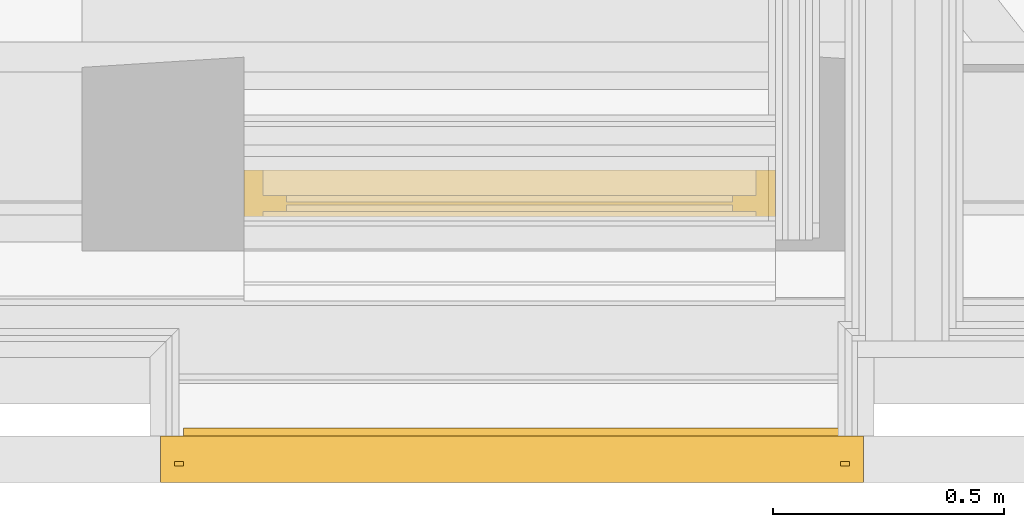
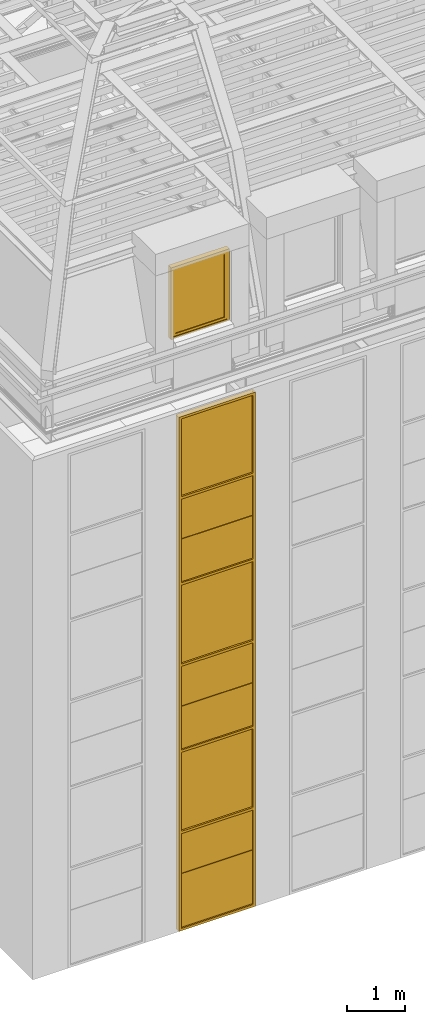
# One storey, part 107 of 183: 1 curtain wall, 1 window.
"""IFC2X3 building model written with IfcOpenShell, lengths in metres."""

from ifc_helpers import new_model, entity, si_unit, converted_unit, derived_unit, money_unit, direction, frame, origin_with_axes, place, context, subcontext, project, spatial, faceted_brep, material, type_object, element, save


model = new_model("IFC2X3")

# Units and contexts
model_context = context("Model", 3, precision=1e-05, world=origin_with_axes(), true_north=direction((0.0, 1.0)))
body_context = subcontext(model_context, "Body", "Model", "MODEL_VIEW", scale=1.0)
ifc_project = project(units=[si_unit("LENGTHUNIT", "METRE"), si_unit("AREAUNIT", "SQUARE_METRE"), si_unit("VOLUMEUNIT", "CUBIC_METRE"), si_unit("ABSORBEDDOSEUNIT", "GRAY"), si_unit("AMOUNTOFSUBSTANCEUNIT", "MOLE"), si_unit("DOSEEQUIVALENTUNIT", "SIEVERT"), si_unit("ELECTRICCAPACITANCEUNIT", "FARAD"), si_unit("ELECTRICCHARGEUNIT", "COULOMB"), si_unit("ELECTRICCONDUCTANCEUNIT", "SIEMENS"), si_unit("ELECTRICCURRENTUNIT", "AMPERE"), si_unit("ELECTRICRESISTANCEUNIT", "OHM"), si_unit("ELECTRICVOLTAGEUNIT", "VOLT"), si_unit("ENERGYUNIT", "JOULE"), si_unit("FORCEUNIT", "NEWTON"), si_unit("FREQUENCYUNIT", "HERTZ"), si_unit("ILLUMINANCEUNIT", "LUX"), si_unit("INDUCTANCEUNIT", "HENRY"), si_unit("LUMINOUSFLUXUNIT", "LUMEN"), si_unit("LUMINOUSINTENSITYUNIT", "CANDELA"), si_unit("MAGNETICFLUXDENSITYUNIT", "TESLA"), si_unit("MAGNETICFLUXUNIT", "WEBER"), si_unit("MASSUNIT", "GRAM"), converted_unit("PLANEANGLEUNIT", "degree", entity("IfcReal", 0.0174532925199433), si_unit("PLANEANGLEUNIT", "RADIAN"), dimensions=[0, 0, 0, 0, 0, 0, 0]), si_unit("POWERUNIT", "WATT"), si_unit("PRESSUREUNIT", "PASCAL"), si_unit("RADIOACTIVITYUNIT", "BECQUEREL"), si_unit("SOLIDANGLEUNIT", "STERADIAN"), si_unit("THERMODYNAMICTEMPERATUREUNIT", "KELVIN"), si_unit("TIMEUNIT", "SECOND"), derived_unit("ACCELERATIONUNIT", [(si_unit("LENGTHUNIT", "METRE"), 1), (si_unit("TIMEUNIT", "SECOND"), -2)]), derived_unit("ANGULARVELOCITYUNIT", [(converted_unit("PLANEANGLEUNIT", "degree", entity("IfcReal", 0.0174532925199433), si_unit("PLANEANGLEUNIT", "RADIAN"), dimensions=[0, 0, 0, 0, 0, 0, 0]), 1), (si_unit("TIMEUNIT", "SECOND"), -1)]), derived_unit("CURVATUREUNIT", [(converted_unit("PLANEANGLEUNIT", "degree", entity("IfcReal", 0.0174532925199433), si_unit("PLANEANGLEUNIT", "RADIAN"), dimensions=[0, 0, 0, 0, 0, 0, 0]), 1), (si_unit("LENGTHUNIT", "METRE"), -1)]), derived_unit("DYNAMICVISCOSITYUNIT", [(si_unit("PRESSUREUNIT", "PASCAL"), 1), (si_unit("TIMEUNIT", "SECOND"), 1)]), derived_unit("HEATFLUXDENSITYUNIT", [(si_unit("POWERUNIT", "WATT"), 1), (si_unit("LENGTHUNIT", "METRE"), -2)]), derived_unit("HEATINGVALUEUNIT", [(si_unit("ENERGYUNIT", "JOULE"), 1), (si_unit("MASSUNIT", "GRAM"), -1)]), derived_unit("INTEGERCOUNTRATEUNIT", [(si_unit("TIMEUNIT", "SECOND"), -1)]), derived_unit("IONCONCENTRATIONUNIT", [(si_unit("MASSUNIT", "GRAM"), 1), (si_unit("VOLUMEUNIT", "CUBIC_METRE"), -1)]), derived_unit("ISOTHERMALMOISTURECAPACITYUNIT", [(si_unit("VOLUMEUNIT", "CUBIC_METRE"), 1), (si_unit("MASSUNIT", "GRAM"), -1)]), derived_unit("KINEMATICVISCOSITYUNIT", [(si_unit("AREAUNIT", "SQUARE_METRE"), 1), (si_unit("TIMEUNIT", "SECOND"), -1)]), derived_unit("LINEARFORCEUNIT", [(si_unit("FORCEUNIT", "NEWTON"), 1), (si_unit("LENGTHUNIT", "METRE"), -1)]), derived_unit("LINEARMOMENTUNIT", [(si_unit("FORCEUNIT", "NEWTON"), 1), (si_unit("LENGTHUNIT", "METRE"), -1)]), derived_unit("LINEARSTIFFNESSUNIT", [(si_unit("FORCEUNIT", "NEWTON"), 1), (si_unit("LENGTHUNIT", "METRE"), -1)]), derived_unit("LINEARVELOCITYUNIT", [(si_unit("LENGTHUNIT", "METRE"), 1), (si_unit("TIMEUNIT", "SECOND"), -1)]), derived_unit("LUMINOUSINTENSITYDISTRIBUTIONUNIT", [(si_unit("LUMINOUSINTENSITYUNIT", "CANDELA"), 1), (si_unit("LUMINOUSFLUXUNIT", "LUMEN"), -1)]), derived_unit("MASSDENSITYUNIT", [(si_unit("MASSUNIT", "GRAM"), 1), (si_unit("VOLUMEUNIT", "CUBIC_METRE"), -1)]), derived_unit("MASSFLOWRATEUNIT", [(si_unit("MASSUNIT", "GRAM"), 1), (si_unit("TIMEUNIT", "SECOND"), -1)]), derived_unit("MASSPERLENGTHUNIT", [(si_unit("MASSUNIT", "GRAM"), 1), (si_unit("LENGTHUNIT", "METRE"), -1)]), derived_unit("MODULUSOFELASTICITYUNIT", [(si_unit("FORCEUNIT", "NEWTON"), 1), (si_unit("AREAUNIT", "SQUARE_METRE"), -1)]), derived_unit("MODULUSOFLINEARSUBGRADEREACTIONUNIT", [(si_unit("FORCEUNIT", "NEWTON"), 1), (si_unit("LENGTHUNIT", "METRE"), -2)]), derived_unit("MODULUSOFROTATIONALSUBGRADEREACTIONUNIT", [(si_unit("FORCEUNIT", "NEWTON"), 1), (si_unit("LENGTHUNIT", "METRE"), 1)]), derived_unit("MODULUSOFSUBGRADEREACTIONUNIT", [(si_unit("FORCEUNIT", "NEWTON"), 1), (si_unit("VOLUMEUNIT", "CUBIC_METRE"), -1)]), derived_unit("MOISTUREDIFFUSIVITYUNIT", [(si_unit("VOLUMEUNIT", "CUBIC_METRE"), 1), (si_unit("TIMEUNIT", "SECOND"), -1)]), derived_unit("MOLECULARWEIGHTUNIT", [(si_unit("MASSUNIT", "GRAM"), 1), (si_unit("AMOUNTOFSUBSTANCEUNIT", "MOLE"), -1)]), derived_unit("PLANARFORCEUNIT", [(si_unit("FORCEUNIT", "NEWTON"), 1), (si_unit("LENGTHUNIT", "METRE"), -2)]), derived_unit("ROTATIONALFREQUENCYUNIT", [(si_unit("TIMEUNIT", "SECOND"), -1)]), derived_unit("ROTATIONALMASSUNIT", [(si_unit("MASSUNIT", "GRAM"), 1), (si_unit("LENGTHUNIT", "METRE"), 2)]), derived_unit("ROTATIONALSTIFFNESSUNIT", [(si_unit("FORCEUNIT", "NEWTON"), 1), (si_unit("LENGTHUNIT", "METRE"), 1), (converted_unit("PLANEANGLEUNIT", "degree", entity("IfcReal", 0.0174532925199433), si_unit("PLANEANGLEUNIT", "RADIAN"), dimensions=[0, 0, 0, 0, 0, 0, 0]), -1)]), derived_unit("SECTIONAREAINTEGRALUNIT", [(si_unit("LENGTHUNIT", "METRE"), 5)]), derived_unit("SECTIONMODULUSUNIT", [(si_unit("LENGTHUNIT", "METRE"), 3)]), derived_unit("SHEARMODULUSUNIT", [(si_unit("FORCEUNIT", "NEWTON"), 1), (si_unit("AREAUNIT", "SQUARE_METRE"), -1)]), derived_unit("SOUNDPOWERUNIT", [(si_unit("ENERGYUNIT", "JOULE"), 1), (si_unit("TIMEUNIT", "SECOND"), -1)]), derived_unit("SPECIFICHEATCAPACITYUNIT", [(si_unit("FORCEUNIT", "NEWTON"), 1), (si_unit("MASSUNIT", "GRAM"), -1), (si_unit("THERMODYNAMICTEMPERATUREUNIT", "KELVIN"), -1)]), derived_unit("TEMPERATUREGRADIENTUNIT", [(si_unit("THERMODYNAMICTEMPERATUREUNIT", "KELVIN"), 1), (si_unit("LENGTHUNIT", "METRE"), -1)]), derived_unit("THERMALADMITTANCEUNIT", [(si_unit("POWERUNIT", "WATT"), 1), (si_unit("AREAUNIT", "SQUARE_METRE"), -1), (si_unit("THERMODYNAMICTEMPERATUREUNIT", "KELVIN"), -1)]), derived_unit("THERMALCONDUCTANCEUNIT", [(si_unit("POWERUNIT", "WATT"), 1), (si_unit("LENGTHUNIT", "METRE"), -1), (si_unit("THERMODYNAMICTEMPERATUREUNIT", "KELVIN"), -1)]), derived_unit("THERMALEXPANSIONCOEFFICIENTUNIT", [(si_unit("THERMODYNAMICTEMPERATUREUNIT", "KELVIN"), -1)]), derived_unit("THERMALRESISTANCEUNIT", [(si_unit("AREAUNIT", "SQUARE_METRE"), 1), (si_unit("POWERUNIT", "WATT"), -1)]), derived_unit("THERMALTRANSMITTANCEUNIT", [(si_unit("POWERUNIT", "WATT"), 1), (si_unit("AREAUNIT", "SQUARE_METRE"), -1), (si_unit("THERMODYNAMICTEMPERATUREUNIT", "KELVIN"), -1)]), derived_unit("TORQUEUNIT", [(si_unit("FORCEUNIT", "NEWTON"), 1), (si_unit("LENGTHUNIT", "METRE"), 1)]), derived_unit("VAPORPERMEABILITYUNIT", [(si_unit("MASSUNIT", "GRAM"), 1), (si_unit("TIMEUNIT", "SECOND"), -1)]), derived_unit("VOLUMETRICFLOWRATEUNIT", [(si_unit("VOLUMEUNIT", "CUBIC_METRE"), 1), (si_unit("TIMEUNIT", "SECOND"), -1)]), derived_unit("WARPINGCONSTANTUNIT", [(si_unit("LENGTHUNIT", "METRE"), 6)]), derived_unit("WARPINGMOMENTUNIT", [(si_unit("FORCEUNIT", "NEWTON"), 1), (si_unit("LENGTHUNIT", "METRE"), 2)]), money_unit("GBP")], contexts=[model_context])

# Site, building, storey
site_placement = place(None, origin_with_axes())
site = spatial("IfcSite", under=ifc_project, at=site_placement, Name="Site", CompositionType="ELEMENT")
building_placement = place(site_placement, origin_with_axes())
building = spatial("IfcBuilding", under=site, at=building_placement, Name="Building01", CompositionType="ELEMENT")
storey_placement = place(building_placement, frame((0.0, 0.0, 5.15), z_axis=(0.0, 0.0, 1.0), x_axis=(1.0, 0.0, 0.0)))
storey = spatial("IfcBuildingStorey", under=building, at=storey_placement, Name="1F", CompositionType="ELEMENT", Elevation=5.15)

# Curtain wall
ifc_material_1 = material(Name="A-CurtainWall_Frame")
curtain_wall_type = type_object("IfcCurtainWallType", Name="Pattern - Maximum Spacing", PredefinedType="NOTDEFINED")
curtain_wall_placement = place(storey_placement, frame((0.0, 0.0, -5.15), z_axis=(0.0, 0.0, 1.0), x_axis=(1.0, 0.0, 0.0)))
element("IfcCurtainWall", 1, at=curtain_wall_placement, inside=storey, type_object=curtain_wall_type, material=ifc_material_1, Name="17", ObjectType="Pattern - Maximum Spacing", context=body_context, shape_type="Brep", body=[
    faceted_brep([(2.92, 0.05, 4.0), (2.92, 0.03, 4.0), (2.92, 0.03, 5.118945), (2.92, 0.05, 5.118945), (4.38, 0.05, 4.0), (4.38, 0.03, 4.0), (4.38, 0.05, 5.118945), (4.38, 0.03, 5.118945)], [[[0, 1, 2, 3]], [[4, 5, 1, 0]], [[6, 7, 5, 4]], [[3, 2, 7, 6]], [[1, 5, 7, 2]], [[3, 6, 4, 0]]]),
    faceted_brep([(2.94, 0.045, 3.97), (2.92, 0.045, 3.97), (2.92, 0.035, 3.97), (2.94, 0.035, 3.97), (2.94, 0.0, 3.97), (2.89, 0.0, 3.97), (2.89, 0.1, 3.97), (2.94, 0.1, 3.97), (2.94, 0.1, 5.123945), (2.94, 0.045, 5.123945), (2.92, 0.045, 5.123945), (2.92, 0.035, 5.123945), (2.94, 0.035, 5.123945), (2.94, 0.0, 5.123945), (2.89, 0.0, 5.123945), (2.89, 0.1, 5.123945)], [[[0, 1, 2, 3, 4, 5, 6, 7]], [[7, 8, 9, 0]], [[0, 9, 10, 1]], [[1, 10, 11, 2]], [[2, 11, 12, 3]], [[3, 12, 13, 4]], [[4, 13, 14, 5]], [[5, 14, 15, 6]], [[6, 15, 8, 7]]]),
    faceted_brep([(4.36, 0.045, 4.0), (4.36, 0.035, 4.0), (4.36, 0.035, 4.02), (4.36, 0.0, 4.02), (4.36, 0.0, 3.97), (4.36, 0.1, 3.97), (4.36, 0.1, 4.02), (4.36, 0.045, 4.02), (2.94, 0.045, 4.02), (2.94, 0.045, 4.0), (2.94, 0.035, 4.0), (2.94, 0.035, 4.02), (2.94, 0.0, 4.02), (2.94, 0.0, 3.97), (2.94, 0.1, 3.97), (2.94, 0.1, 4.02)], [[[0, 1, 2, 3, 4, 5, 6, 7]], [[7, 8, 9, 0]], [[0, 9, 10, 1]], [[1, 10, 11, 2]], [[2, 11, 12, 3]], [[3, 12, 13, 4]], [[4, 13, 14, 5]], [[5, 14, 15, 6]], [[6, 15, 8, 7]], [[8, 15, 14, 13, 12, 11, 10, 9]]]),
    faceted_brep([(4.36, 0.045, 3.97), (4.36, 0.045, 5.123945), (4.36, 0.1, 5.123945), (4.36, 0.1, 3.97), (4.38, 0.045, 3.97), (4.38, 0.045, 5.123945), (4.38, 0.035, 3.97), (4.38, 0.035, 5.123945), (4.36, 0.035, 3.97), (4.36, 0.035, 5.123945), (4.36, 0.0, 3.97), (4.36, 0.0, 5.123945), (4.41, 0.0, 3.97), (4.41, 0.0, 5.123945), (4.41, 0.1, 3.97), (4.41, 0.1, 5.123945)], [[[0, 1, 2, 3]], [[4, 5, 1, 0]], [[6, 7, 5, 4]], [[8, 9, 7, 6]], [[10, 11, 9, 8]], [[12, 13, 11, 10]], [[14, 15, 13, 12]], [[3, 2, 15, 14]], [[14, 12, 10, 8, 6, 4, 0, 3]]]),
    faceted_brep([(2.94, 0.0625, 5.118945), (2.94, 0.0525, 5.118945), (2.94, 0.0525, 5.098945), (2.94, 0.0175, 5.098945), (2.94, 0.0175, 5.148945), (2.94, 0.0525, 5.148945), (2.94, 0.0525, 5.128945), (2.94, 0.0625, 5.128945), (2.94, 0.0625, 5.148945), (2.94, 0.1175, 5.148945), (2.94, 0.1175, 5.098945), (2.94, 0.0625, 5.098945), (4.36, 0.0625, 5.098945), (4.36, 0.0625, 5.118945), (4.36, 0.0525, 5.118945), (4.36, 0.0525, 5.098945), (4.36, 0.0175, 5.098945), (4.36, 0.0175, 5.148945), (4.36, 0.0525, 5.148945), (4.36, 0.0625, 5.128945), (4.36, 0.0625, 5.148945), (4.36, 0.0525, 5.128945), (4.36, 0.1175, 5.098945), (4.36, 0.1175, 5.148945)], [[[0, 1, 2, 3, 4, 5, 6, 7, 8, 9, 10, 11]], [[11, 12, 13, 0]], [[0, 13, 14, 1]], [[1, 14, 15, 2]], [[2, 15, 16, 3]], [[3, 16, 17, 4]], [[4, 17, 18, 5]], [[7, 19, 20, 8]], [[6, 21, 19, 7]], [[5, 18, 21, 6]], [[10, 22, 12, 11]], [[9, 23, 22, 10]], [[8, 20, 23, 9]], [[20, 19, 21, 18, 17, 16, 15, 14, 13, 12, 22, 23]]]),
    faceted_brep([(2.92, 0.05, 5.128945), (2.92, 0.03, 5.128945), (2.92, 0.03, 6.018105), (2.92, 0.05, 6.018105), (4.38, 0.05, 5.128945), (4.38, 0.03, 5.128945), (4.38, 0.05, 6.018105), (4.38, 0.03, 6.018105)], [[[0, 1, 2, 3]], [[4, 5, 1, 0]], [[6, 7, 5, 4]], [[3, 2, 7, 6]], [[1, 5, 7, 2]], [[3, 6, 4, 0]]]),
    faceted_brep([(2.89, 0.1, 6.023105), (2.89, 0.1, 5.123945), (2.89, 0.0, 5.123945), (2.89, 0.0, 6.023105), (2.94, 0.1, 6.023105), (2.94, 0.1, 5.123945), (2.94, 0.045, 6.023105), (2.94, 0.045, 5.123945), (2.92, 0.045, 6.023105), (2.92, 0.045, 5.123945), (2.92, 0.035, 6.023105), (2.92, 0.035, 5.123945), (2.94, 0.035, 6.023105), (2.94, 0.035, 5.123945), (2.94, 0.0, 6.023105), (2.94, 0.0, 5.123945)], [[[0, 1, 2, 3]], [[4, 5, 1, 0]], [[6, 7, 5, 4]], [[8, 9, 7, 6]], [[10, 11, 9, 8]], [[12, 13, 11, 10]], [[14, 15, 13, 12]], [[3, 2, 15, 14]]]),
    faceted_brep([(4.36, 0.045, 5.123945), (4.36, 0.045, 6.023105), (4.36, 0.1, 6.023105), (4.36, 0.1, 5.123945), (4.38, 0.045, 5.123945), (4.38, 0.045, 6.023105), (4.38, 0.035, 5.123945), (4.38, 0.035, 6.023105), (4.36, 0.035, 5.123945), (4.36, 0.035, 6.023105), (4.36, 0.0, 5.123945), (4.36, 0.0, 6.023105), (4.41, 0.0, 5.123945), (4.41, 0.0, 6.023105), (4.41, 0.1, 5.123945), (4.41, 0.1, 6.023105)], [[[0, 1, 2, 3]], [[4, 5, 1, 0]], [[6, 7, 5, 4]], [[8, 9, 7, 6]], [[10, 11, 9, 8]], [[12, 13, 11, 10]], [[14, 15, 13, 12]], [[3, 2, 15, 14]]]),
    faceted_brep([(2.94, 0.045, 6.018105), (2.94, 0.035, 6.018105), (2.94, 0.035, 5.998105), (2.94, 0.0, 5.998105), (2.94, 0.0, 6.048105), (2.94, 0.035, 6.048105), (2.94, 0.035, 6.028105), (2.94, 0.045, 6.028105), (2.94, 0.045, 6.048105), (2.94, 0.1, 6.048105), (2.94, 0.1, 5.998105), (2.94, 0.045, 5.998105), (4.36, 0.045, 5.998105), (4.36, 0.045, 6.018105), (4.36, 0.035, 6.018105), (4.36, 0.035, 5.998105), (4.36, 0.0, 5.998105), (4.36, 0.0, 6.048105), (4.36, 0.035, 6.048105), (4.36, 0.045, 6.028105), (4.36, 0.045, 6.048105), (4.36, 0.035, 6.028105), (4.36, 0.1, 5.998105), (4.36, 0.1, 6.048105)], [[[0, 1, 2, 3, 4, 5, 6, 7, 8, 9, 10, 11]], [[11, 12, 13, 0]], [[0, 13, 14, 1]], [[1, 14, 15, 2]], [[2, 15, 16, 3]], [[3, 16, 17, 4]], [[4, 17, 18, 5]], [[7, 19, 20, 8]], [[6, 21, 19, 7]], [[5, 18, 21, 6]], [[10, 22, 12, 11]], [[9, 23, 22, 10]], [[8, 20, 23, 9]], [[20, 19, 21, 18, 17, 16, 15, 14, 13, 12, 22, 23]]]),
    faceted_brep([(2.92, 0.045, 6.028105), (2.92, 0.035, 6.028105), (2.92, 0.035, 7.716517), (2.92, 0.045, 7.716517), (4.38, 0.045, 6.028105), (4.38, 0.035, 6.028105), (4.38, 0.045, 7.716517), (4.38, 0.035, 7.716517)], [[[0, 1, 2, 3]], [[4, 5, 1, 0]], [[6, 7, 5, 4]], [[3, 2, 7, 6]], [[1, 5, 7, 2]], [[3, 6, 4, 0]]]),
    faceted_brep([(2.89, 0.1, 7.721517), (2.89, 0.1, 6.023105), (2.89, 0.0, 6.023105), (2.89, 0.0, 7.721517), (2.94, 0.1, 7.721517), (2.94, 0.1, 6.023105), (2.94, 0.045, 7.721517), (2.94, 0.045, 6.023105), (2.92, 0.045, 7.721517), (2.92, 0.045, 6.023105), (2.92, 0.035, 7.721517), (2.92, 0.035, 6.023105), (2.94, 0.035, 7.721517), (2.94, 0.035, 6.023105), (2.94, 0.0, 7.721517), (2.94, 0.0, 6.023105)], [[[0, 1, 2, 3]], [[4, 5, 1, 0]], [[6, 7, 5, 4]], [[8, 9, 7, 6]], [[10, 11, 9, 8]], [[12, 13, 11, 10]], [[14, 15, 13, 12]], [[3, 2, 15, 14]]]),
    faceted_brep([(4.36, 0.045, 6.023105), (4.36, 0.045, 7.721517), (4.36, 0.1, 7.721517), (4.36, 0.1, 6.023105), (4.38, 0.045, 6.023105), (4.38, 0.045, 7.721517), (4.38, 0.035, 6.023105), (4.38, 0.035, 7.721517), (4.36, 0.035, 6.023105), (4.36, 0.035, 7.721517), (4.36, 0.0, 6.023105), (4.36, 0.0, 7.721517), (4.41, 0.0, 6.023105), (4.41, 0.0, 7.721517), (4.41, 0.1, 6.023105), (4.41, 0.1, 7.721517)], [[[0, 1, 2, 3]], [[4, 5, 1, 0]], [[6, 7, 5, 4]], [[8, 9, 7, 6]], [[10, 11, 9, 8]], [[12, 13, 11, 10]], [[14, 15, 13, 12]], [[3, 2, 15, 14]]]),
    faceted_brep([(2.94, 0.045, 7.716517), (2.94, 0.035, 7.716517), (2.94, 0.035, 7.696517), (2.94, 0.0, 7.696517), (2.94, 0.0, 7.746517), (2.94, 0.035, 7.746517), (2.94, 0.035, 7.726517), (2.94, 0.045, 7.726517), (2.94, 0.045, 7.746517), (2.94, 0.1, 7.746517), (2.94, 0.1, 7.696517), (2.94, 0.045, 7.696517), (4.36, 0.045, 7.696517), (4.36, 0.045, 7.716517), (4.36, 0.035, 7.716517), (4.36, 0.035, 7.696517), (4.36, 0.0, 7.696517), (4.36, 0.0, 7.746517), (4.36, 0.035, 7.746517), (4.36, 0.045, 7.726517), (4.36, 0.045, 7.746517), (4.36, 0.035, 7.726517), (4.36, 0.1, 7.696517), (4.36, 0.1, 7.746517)], [[[0, 1, 2, 3, 4, 5, 6, 7, 8, 9, 10, 11]], [[11, 12, 13, 0]], [[0, 13, 14, 1]], [[1, 14, 15, 2]], [[2, 15, 16, 3]], [[3, 16, 17, 4]], [[4, 17, 18, 5]], [[7, 19, 20, 8]], [[6, 21, 19, 7]], [[5, 18, 21, 6]], [[10, 22, 12, 11]], [[9, 23, 22, 10]], [[8, 20, 23, 9]], [[20, 19, 21, 18, 17, 16, 15, 14, 13, 12, 22, 23]]]),
    faceted_brep([(2.92, 0.05, 7.726517), (2.92, 0.03, 7.726517), (2.92, 0.03, 8.615677), (2.92, 0.05, 8.615677), (4.38, 0.05, 7.726517), (4.38, 0.03, 7.726517), (4.38, 0.05, 8.615677), (4.38, 0.03, 8.615677)], [[[0, 1, 2, 3]], [[4, 5, 1, 0]], [[6, 7, 5, 4]], [[3, 2, 7, 6]], [[1, 5, 7, 2]], [[3, 6, 4, 0]]]),
    faceted_brep([(2.89, 0.1, 8.620677), (2.89, 0.1, 7.721517), (2.89, 0.0, 7.721517), (2.89, 0.0, 8.620677), (2.94, 0.1, 8.620677), (2.94, 0.1, 7.721517), (2.94, 0.045, 8.620677), (2.94, 0.045, 7.721517), (2.92, 0.045, 8.620677), (2.92, 0.045, 7.721517), (2.92, 0.035, 8.620677), (2.92, 0.035, 7.721517), (2.94, 0.035, 8.620677), (2.94, 0.035, 7.721517), (2.94, 0.0, 8.620677), (2.94, 0.0, 7.721517)], [[[0, 1, 2, 3]], [[4, 5, 1, 0]], [[6, 7, 5, 4]], [[8, 9, 7, 6]], [[10, 11, 9, 8]], [[12, 13, 11, 10]], [[14, 15, 13, 12]], [[3, 2, 15, 14]]]),
    faceted_brep([(4.36, 0.045, 7.721517), (4.36, 0.045, 8.620677), (4.36, 0.1, 8.620677), (4.36, 0.1, 7.721517), (4.38, 0.045, 7.721517), (4.38, 0.045, 8.620677), (4.38, 0.035, 7.721517), (4.38, 0.035, 8.620677), (4.36, 0.035, 7.721517), (4.36, 0.035, 8.620677), (4.36, 0.0, 7.721517), (4.36, 0.0, 8.620677), (4.41, 0.0, 7.721517), (4.41, 0.0, 8.620677), (4.41, 0.1, 7.721517), (4.41, 0.1, 8.620677)], [[[0, 1, 2, 3]], [[4, 5, 1, 0]], [[6, 7, 5, 4]], [[8, 9, 7, 6]], [[10, 11, 9, 8]], [[12, 13, 11, 10]], [[14, 15, 13, 12]], [[3, 2, 15, 14]]]),
    faceted_brep([(2.94, 0.0625, 8.615677), (2.94, 0.0525, 8.615677), (2.94, 0.0525, 8.595677), (2.94, 0.0175, 8.595677), (2.94, 0.0175, 8.645677), (2.94, 0.0525, 8.645677), (2.94, 0.0525, 8.625677), (2.94, 0.0625, 8.625677), (2.94, 0.0625, 8.645677), (2.94, 0.1175, 8.645677), (2.94, 0.1175, 8.595677), (2.94, 0.0625, 8.595677), (4.36, 0.0625, 8.595677), (4.36, 0.0625, 8.615677), (4.36, 0.0525, 8.615677), (4.36, 0.0525, 8.595677), (4.36, 0.0175, 8.595677), (4.36, 0.0175, 8.645677), (4.36, 0.0525, 8.645677), (4.36, 0.0625, 8.625677), (4.36, 0.0625, 8.645677), (4.36, 0.0525, 8.625677), (4.36, 0.1175, 8.595677), (4.36, 0.1175, 8.645677)], [[[0, 1, 2, 3, 4, 5, 6, 7, 8, 9, 10, 11]], [[11, 12, 13, 0]], [[0, 13, 14, 1]], [[1, 14, 15, 2]], [[2, 15, 16, 3]], [[3, 16, 17, 4]], [[4, 17, 18, 5]], [[7, 19, 20, 8]], [[6, 21, 19, 7]], [[5, 18, 21, 6]], [[10, 22, 12, 11]], [[9, 23, 22, 10]], [[8, 20, 23, 9]], [[20, 19, 21, 18, 17, 16, 15, 14, 13, 12, 22, 23]]]),
    faceted_brep([(2.92, 0.05, 8.625677), (2.92, 0.03, 8.625677), (2.92, 0.03, 9.514837), (2.92, 0.05, 9.514837), (4.38, 0.05, 8.625677), (4.38, 0.03, 8.625677), (4.38, 0.05, 9.514837), (4.38, 0.03, 9.514837)], [[[0, 1, 2, 3]], [[4, 5, 1, 0]], [[6, 7, 5, 4]], [[3, 2, 7, 6]], [[1, 5, 7, 2]], [[3, 6, 4, 0]]]),
    faceted_brep([(2.89, 0.1, 9.519837), (2.89, 0.1, 8.620677), (2.89, 0.0, 8.620677), (2.89, 0.0, 9.519837), (2.94, 0.1, 9.519837), (2.94, 0.1, 8.620677), (2.94, 0.045, 9.519837), (2.94, 0.045, 8.620677), (2.92, 0.045, 9.519837), (2.92, 0.045, 8.620677), (2.92, 0.035, 9.519837), (2.92, 0.035, 8.620677), (2.94, 0.035, 9.519837), (2.94, 0.035, 8.620677), (2.94, 0.0, 9.519837), (2.94, 0.0, 8.620677)], [[[0, 1, 2, 3]], [[4, 5, 1, 0]], [[6, 7, 5, 4]], [[8, 9, 7, 6]], [[10, 11, 9, 8]], [[12, 13, 11, 10]], [[14, 15, 13, 12]], [[3, 2, 15, 14]]]),
    faceted_brep([(4.36, 0.045, 8.620677), (4.36, 0.045, 9.519837), (4.36, 0.1, 9.519837), (4.36, 0.1, 8.620677), (4.38, 0.045, 8.620677), (4.38, 0.045, 9.519837), (4.38, 0.035, 8.620677), (4.38, 0.035, 9.519837), (4.36, 0.035, 8.620677), (4.36, 0.035, 9.519837), (4.36, 0.0, 8.620677), (4.36, 0.0, 9.519837), (4.41, 0.0, 8.620677), (4.41, 0.0, 9.519837), (4.41, 0.1, 8.620677), (4.41, 0.1, 9.519837)], [[[0, 1, 2, 3]], [[4, 5, 1, 0]], [[6, 7, 5, 4]], [[8, 9, 7, 6]], [[10, 11, 9, 8]], [[12, 13, 11, 10]], [[14, 15, 13, 12]], [[3, 2, 15, 14]]]),
    faceted_brep([(2.94, 0.045, 9.514837), (2.94, 0.035, 9.514837), (2.94, 0.035, 9.494837), (2.94, 0.0, 9.494837), (2.94, 0.0, 9.544837), (2.94, 0.035, 9.544837), (2.94, 0.035, 9.524837), (2.94, 0.045, 9.524837), (2.94, 0.045, 9.544837), (2.94, 0.1, 9.544837), (2.94, 0.1, 9.494837), (2.94, 0.045, 9.494837), (4.36, 0.045, 9.494837), (4.36, 0.045, 9.514837), (4.36, 0.035, 9.514837), (4.36, 0.035, 9.494837), (4.36, 0.0, 9.494837), (4.36, 0.0, 9.544837), (4.36, 0.035, 9.544837), (4.36, 0.045, 9.524837), (4.36, 0.045, 9.544837), (4.36, 0.035, 9.524837), (4.36, 0.1, 9.494837), (4.36, 0.1, 9.544837)], [[[0, 1, 2, 3, 4, 5, 6, 7, 8, 9, 10, 11]], [[11, 12, 13, 0]], [[0, 13, 14, 1]], [[1, 14, 15, 2]], [[2, 15, 16, 3]], [[3, 16, 17, 4]], [[4, 17, 18, 5]], [[7, 19, 20, 8]], [[6, 21, 19, 7]], [[5, 18, 21, 6]], [[10, 22, 12, 11]], [[9, 23, 22, 10]], [[8, 20, 23, 9]], [[20, 19, 21, 18, 17, 16, 15, 14, 13, 12, 22, 23]]]),
    faceted_brep([(2.92, 0.045, 9.524837), (2.92, 0.035, 9.524837), (2.92, 0.035, 11.213249), (2.92, 0.045, 11.213249), (4.38, 0.045, 9.524837), (4.38, 0.035, 9.524837), (4.38, 0.045, 11.213249), (4.38, 0.035, 11.213249)], [[[0, 1, 2, 3]], [[4, 5, 1, 0]], [[6, 7, 5, 4]], [[3, 2, 7, 6]], [[1, 5, 7, 2]], [[3, 6, 4, 0]]]),
    faceted_brep([(2.89, 0.1, 11.218249), (2.89, 0.1, 9.519837), (2.89, 0.0, 9.519837), (2.89, 0.0, 11.218249), (2.94, 0.1, 11.218249), (2.94, 0.1, 9.519837), (2.94, 0.045, 11.218249), (2.94, 0.045, 9.519837), (2.92, 0.045, 11.218249), (2.92, 0.045, 9.519837), (2.92, 0.035, 11.218249), (2.92, 0.035, 9.519837), (2.94, 0.035, 11.218249), (2.94, 0.035, 9.519837), (2.94, 0.0, 11.218249), (2.94, 0.0, 9.519837)], [[[0, 1, 2, 3]], [[4, 5, 1, 0]], [[6, 7, 5, 4]], [[8, 9, 7, 6]], [[10, 11, 9, 8]], [[12, 13, 11, 10]], [[14, 15, 13, 12]], [[3, 2, 15, 14]]]),
    faceted_brep([(4.36, 0.045, 9.519837), (4.36, 0.045, 11.218249), (4.36, 0.1, 11.218249), (4.36, 0.1, 9.519837), (4.38, 0.045, 9.519837), (4.38, 0.045, 11.218249), (4.38, 0.035, 9.519837), (4.38, 0.035, 11.218249), (4.36, 0.035, 9.519837), (4.36, 0.035, 11.218249), (4.36, 0.0, 9.519837), (4.36, 0.0, 11.218249), (4.41, 0.0, 9.519837), (4.41, 0.0, 11.218249), (4.41, 0.1, 9.519837), (4.41, 0.1, 11.218249)], [[[0, 1, 2, 3]], [[4, 5, 1, 0]], [[6, 7, 5, 4]], [[8, 9, 7, 6]], [[10, 11, 9, 8]], [[12, 13, 11, 10]], [[14, 15, 13, 12]], [[3, 2, 15, 14]]]),
    faceted_brep([(2.94, 0.045, 11.213249), (2.94, 0.035, 11.213249), (2.94, 0.035, 11.193249), (2.94, 0.0, 11.193249), (2.94, 0.0, 11.243249), (2.94, 0.035, 11.243249), (2.94, 0.035, 11.223249), (2.94, 0.045, 11.223249), (2.94, 0.045, 11.243249), (2.94, 0.1, 11.243249), (2.94, 0.1, 11.193249), (2.94, 0.045, 11.193249), (4.36, 0.045, 11.193249), (4.36, 0.045, 11.213249), (4.36, 0.035, 11.213249), (4.36, 0.035, 11.193249), (4.36, 0.0, 11.193249), (4.36, 0.0, 11.243249), (4.36, 0.035, 11.243249), (4.36, 0.045, 11.223249), (4.36, 0.045, 11.243249), (4.36, 0.035, 11.223249), (4.36, 0.1, 11.193249), (4.36, 0.1, 11.243249)], [[[0, 1, 2, 3, 4, 5, 6, 7, 8, 9, 10, 11]], [[11, 12, 13, 0]], [[0, 13, 14, 1]], [[1, 14, 15, 2]], [[2, 15, 16, 3]], [[3, 16, 17, 4]], [[4, 17, 18, 5]], [[7, 19, 20, 8]], [[6, 21, 19, 7]], [[5, 18, 21, 6]], [[10, 22, 12, 11]], [[9, 23, 22, 10]], [[8, 20, 23, 9]], [[20, 19, 21, 18, 17, 16, 15, 14, 13, 12, 22, 23]]]),
    faceted_brep([(2.92, 0.05, 11.223249), (2.92, 0.03, 11.223249), (2.92, 0.03, 12.112409), (2.92, 0.05, 12.112409), (4.38, 0.05, 11.223249), (4.38, 0.03, 11.223249), (4.38, 0.05, 12.112409), (4.38, 0.03, 12.112409)], [[[0, 1, 2, 3]], [[4, 5, 1, 0]], [[6, 7, 5, 4]], [[3, 2, 7, 6]], [[1, 5, 7, 2]], [[3, 6, 4, 0]]]),
    faceted_brep([(2.89, 0.1, 12.117409), (2.89, 0.1, 11.218249), (2.89, 0.0, 11.218249), (2.89, 0.0, 12.117409), (2.94, 0.1, 12.117409), (2.94, 0.1, 11.218249), (2.94, 0.045, 12.117409), (2.94, 0.045, 11.218249), (2.92, 0.045, 12.117409), (2.92, 0.045, 11.218249), (2.92, 0.035, 12.117409), (2.92, 0.035, 11.218249), (2.94, 0.035, 12.117409), (2.94, 0.035, 11.218249), (2.94, 0.0, 12.117409), (2.94, 0.0, 11.218249)], [[[0, 1, 2, 3]], [[4, 5, 1, 0]], [[6, 7, 5, 4]], [[8, 9, 7, 6]], [[10, 11, 9, 8]], [[12, 13, 11, 10]], [[14, 15, 13, 12]], [[3, 2, 15, 14]]]),
    faceted_brep([(4.36, 0.045, 11.218249), (4.36, 0.045, 12.117409), (4.36, 0.1, 12.117409), (4.36, 0.1, 11.218249), (4.38, 0.045, 11.218249), (4.38, 0.045, 12.117409), (4.38, 0.035, 11.218249), (4.38, 0.035, 12.117409), (4.36, 0.035, 11.218249), (4.36, 0.035, 12.117409), (4.36, 0.0, 11.218249), (4.36, 0.0, 12.117409), (4.41, 0.0, 11.218249), (4.41, 0.0, 12.117409), (4.41, 0.1, 11.218249), (4.41, 0.1, 12.117409)], [[[0, 1, 2, 3]], [[4, 5, 1, 0]], [[6, 7, 5, 4]], [[8, 9, 7, 6]], [[10, 11, 9, 8]], [[12, 13, 11, 10]], [[14, 15, 13, 12]], [[3, 2, 15, 14]]]),
    faceted_brep([(2.94, 0.0625, 12.112409), (2.94, 0.0525, 12.112409), (2.94, 0.0525, 12.092409), (2.94, 0.0175, 12.092409), (2.94, 0.0175, 12.142409), (2.94, 0.0525, 12.142409), (2.94, 0.0525, 12.122409), (2.94, 0.0625, 12.122409), (2.94, 0.0625, 12.142409), (2.94, 0.1175, 12.142409), (2.94, 0.1175, 12.092409), (2.94, 0.0625, 12.092409), (4.36, 0.0625, 12.092409), (4.36, 0.0625, 12.112409), (4.36, 0.0525, 12.112409), (4.36, 0.0525, 12.092409), (4.36, 0.0175, 12.092409), (4.36, 0.0175, 12.142409), (4.36, 0.0525, 12.142409), (4.36, 0.0625, 12.122409), (4.36, 0.0625, 12.142409), (4.36, 0.0525, 12.122409), (4.36, 0.1175, 12.092409), (4.36, 0.1175, 12.142409)], [[[0, 1, 2, 3, 4, 5, 6, 7, 8, 9, 10, 11]], [[11, 12, 13, 0]], [[0, 13, 14, 1]], [[1, 14, 15, 2]], [[2, 15, 16, 3]], [[3, 16, 17, 4]], [[4, 17, 18, 5]], [[7, 19, 20, 8]], [[6, 21, 19, 7]], [[5, 18, 21, 6]], [[10, 22, 12, 11]], [[9, 23, 22, 10]], [[8, 20, 23, 9]], [[20, 19, 21, 18, 17, 16, 15, 14, 13, 12, 22, 23]]]),
    faceted_brep([(4.38, 0.045, 14.69), (4.38, 0.035, 14.69), (4.38, 0.035, 13.021569), (4.38, 0.045, 13.021569), (2.92, 0.045, 14.69), (2.92, 0.035, 14.69), (2.92, 0.045, 13.021569), (2.92, 0.035, 13.021569)], [[[0, 1, 2, 3]], [[4, 5, 1, 0]], [[6, 7, 5, 4]], [[3, 2, 7, 6]], [[1, 5, 7, 2]], [[3, 6, 4, 0]]]),
    faceted_brep([(4.36, 0.045, 14.72), (4.38, 0.045, 14.72), (4.38, 0.035, 14.72), (4.36, 0.035, 14.72), (4.36, 0.0, 14.72), (4.41, 0.0, 14.72), (4.41, 0.1, 14.72), (4.36, 0.1, 14.72), (4.36, 0.1, 13.016569), (4.36, 0.045, 13.016569), (4.38, 0.045, 13.016569), (4.38, 0.035, 13.016569), (4.36, 0.035, 13.016569), (4.36, 0.0, 13.016569), (4.41, 0.0, 13.016569), (4.41, 0.1, 13.016569)], [[[0, 1, 2, 3, 4, 5, 6, 7]], [[7, 8, 9, 0]], [[0, 9, 10, 1]], [[1, 10, 11, 2]], [[2, 11, 12, 3]], [[3, 12, 13, 4]], [[4, 13, 14, 5]], [[5, 14, 15, 6]], [[6, 15, 8, 7]]]),
    faceted_brep([(2.94, 0.1, 14.67), (2.94, 0.045, 14.67), (2.94, 0.045, 14.69), (2.94, 0.035, 14.69), (2.94, 0.035, 14.67), (2.94, 0.0, 14.67), (2.94, 0.0, 14.72), (2.94, 0.1, 14.72), (4.36, 0.1, 14.72), (4.36, 0.1, 14.67), (4.36, 0.045, 14.67), (4.36, 0.045, 14.69), (4.36, 0.035, 14.69), (4.36, 0.035, 14.67), (4.36, 0.0, 14.67), (4.36, 0.0, 14.72)], [[[0, 1, 2, 3, 4, 5, 6, 7]], [[7, 8, 9, 0]], [[0, 9, 10, 1]], [[1, 10, 11, 2]], [[2, 11, 12, 3]], [[3, 12, 13, 4]], [[4, 13, 14, 5]], [[5, 14, 15, 6]], [[6, 15, 8, 7]], [[8, 15, 14, 13, 12, 11, 10, 9]]]),
    faceted_brep([(2.94, 0.045, 14.72), (2.94, 0.045, 13.016569), (2.94, 0.1, 13.016569), (2.94, 0.1, 14.72), (2.92, 0.045, 14.72), (2.92, 0.045, 13.016569), (2.92, 0.035, 14.72), (2.92, 0.035, 13.016569), (2.94, 0.035, 14.72), (2.94, 0.035, 13.016569), (2.94, 0.0, 14.72), (2.94, 0.0, 13.016569), (2.89, 0.0, 14.72), (2.89, 0.0, 13.016569), (2.89, 0.1, 14.72), (2.89, 0.1, 13.016569)], [[[0, 1, 2, 3]], [[4, 5, 1, 0]], [[6, 7, 5, 4]], [[8, 9, 7, 6]], [[10, 11, 9, 8]], [[12, 13, 11, 10]], [[14, 15, 13, 12]], [[3, 2, 15, 14]], [[14, 12, 10, 8, 6, 4, 0, 3]]]),
    faceted_brep([(4.36, 0.035, 13.011569), (4.36, 0.045, 13.011569), (4.36, 0.045, 12.991569), (4.36, 0.1, 12.991569), (4.36, 0.1, 13.041569), (4.36, 0.045, 13.041569), (4.36, 0.045, 13.021569), (4.36, 0.035, 13.021569), (4.36, 0.035, 13.041569), (4.36, 0.0, 13.041569), (4.36, 0.0, 12.991569), (4.36, 0.035, 12.991569), (2.94, 0.035, 12.991569), (2.94, 0.035, 13.011569), (2.94, 0.045, 13.011569), (2.94, 0.045, 12.991569), (2.94, 0.1, 12.991569), (2.94, 0.1, 13.041569), (2.94, 0.045, 13.041569), (2.94, 0.035, 13.021569), (2.94, 0.035, 13.041569), (2.94, 0.045, 13.021569), (2.94, 0.0, 12.991569), (2.94, 0.0, 13.041569)], [[[0, 1, 2, 3, 4, 5, 6, 7, 8, 9, 10, 11]], [[11, 12, 13, 0]], [[0, 13, 14, 1]], [[1, 14, 15, 2]], [[2, 15, 16, 3]], [[3, 16, 17, 4]], [[4, 17, 18, 5]], [[7, 19, 20, 8]], [[6, 21, 19, 7]], [[5, 18, 21, 6]], [[10, 22, 12, 11]], [[9, 23, 22, 10]], [[8, 20, 23, 9]], [[20, 19, 21, 18, 17, 16, 15, 14, 13, 12, 22, 23]]]),
    faceted_brep([(2.92, 0.05, 12.122409), (2.92, 0.03, 12.122409), (2.92, 0.03, 13.011569), (2.92, 0.05, 13.011569), (4.38, 0.05, 12.122409), (4.38, 0.03, 12.122409), (4.38, 0.05, 13.011569), (4.38, 0.03, 13.011569)], [[[0, 1, 2, 3]], [[4, 5, 1, 0]], [[6, 7, 5, 4]], [[3, 2, 7, 6]], [[1, 5, 7, 2]], [[3, 6, 4, 0]]]),
    faceted_brep([(2.89, 0.1, 13.016569), (2.89, 0.1, 12.117409), (2.89, 0.0, 12.117409), (2.89, 0.0, 13.016569), (2.94, 0.1, 13.016569), (2.94, 0.1, 12.117409), (2.94, 0.045, 13.016569), (2.94, 0.045, 12.117409), (2.92, 0.045, 13.016569), (2.92, 0.045, 12.117409), (2.92, 0.035, 13.016569), (2.92, 0.035, 12.117409), (2.94, 0.035, 13.016569), (2.94, 0.035, 12.117409), (2.94, 0.0, 13.016569), (2.94, 0.0, 12.117409)], [[[0, 1, 2, 3]], [[4, 5, 1, 0]], [[6, 7, 5, 4]], [[8, 9, 7, 6]], [[10, 11, 9, 8]], [[12, 13, 11, 10]], [[14, 15, 13, 12]], [[3, 2, 15, 14]]]),
    faceted_brep([(4.36, 0.045, 12.117409), (4.36, 0.045, 13.016569), (4.36, 0.1, 13.016569), (4.36, 0.1, 12.117409), (4.38, 0.045, 12.117409), (4.38, 0.045, 13.016569), (4.38, 0.035, 12.117409), (4.38, 0.035, 13.016569), (4.36, 0.035, 12.117409), (4.36, 0.035, 13.016569), (4.36, 0.0, 12.117409), (4.36, 0.0, 13.016569), (4.41, 0.0, 12.117409), (4.41, 0.0, 13.016569), (4.41, 0.1, 12.117409), (4.41, 0.1, 13.016569)], [[[0, 1, 2, 3]], [[4, 5, 1, 0]], [[6, 7, 5, 4]], [[8, 9, 7, 6]], [[10, 11, 9, 8]], [[12, 13, 11, 10]], [[14, 15, 13, 12]], [[3, 2, 15, 14]]]),
])

# Space
space_placement = place(storey_placement, frame((12.175, 4.189428, 9.81), z_axis=(0.0, 0.0, 1.0), x_axis=(0.0, 1.0, 0.0)))
space = spatial("IfcSpace", under=storey, at=space_placement, Name="25", CompositionType="ELEMENT", InteriorOrExteriorSpace="NOTDEFINED")

# Window
ifc_material_2 = material(Name="A_BSUK_Windows")
window_style = type_object("IfcWindowStyle", Name="A-Awning", ConstructionType="NOTDEFINED", OperationType="USERDEFINED", ParameterTakesPrecedence=False, Sizeable=False)
window_placement = place(storey_placement, frame((4.220024, 0.549939, 10.78), z_axis=(0.0, 0.0, 1.0), x_axis=(1.0, 0.0, 0.0)))
element("IfcWindow", 2, at=window_placement, inside=space, type_object=window_style, material=ifc_material_2, Name="4.04", ObjectType="A-Awning", OverallHeight=1.50000000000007, OverallWidth=1.15000000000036, context=body_context, shape_type="Brep", body=[
    faceted_brep([(-1.108, 0.0254, 0.042), (-0.042, 0.0254, 0.042), (-0.042, 0.1254, 0.042), (-1.108, 0.1254, 0.042), (-1.108, 0.0254, 1.458), (-1.108, 0.1254, 1.458), (-0.042, 0.0254, 1.458), (-0.042, 0.1254, 1.458), (0.0, 0.0254, 0.0), (0.0, 0.0254, 1.5), (-1.15, 0.0254, 1.5), (-1.15, 0.0254, 0.0), (0.0, 0.1254, 1.5), (-1.15, 0.1254, 1.5), (-1.15, 0.1254, 0.0), (0.0, 0.1254, 0.0)], [[[0, 1, 2, 3]], [[4, 0, 3, 5]], [[6, 4, 5, 7]], [[8, 9, 10, 11], [4, 6, 1, 0]], [[1, 6, 7, 2]], [[12, 13, 10, 9]], [[14, 15, 8, 11]], [[13, 14, 11, 10]], [[13, 12, 15, 14], [2, 7, 5, 3]], [[15, 12, 9, 8]]]),
    faceted_brep([(-1.0572, 0.0354, 0.0928), (-0.0928, 0.0354, 0.0928), (-0.0928, 0.0704, 0.0928), (-1.0572, 0.0704, 0.0928), (-1.0572, 0.0354, 1.4072), (-1.0572, 0.0704, 1.4072), (-0.0928, 0.0354, 1.4072), (-0.0928, 0.0704, 1.4072), (-1.108, 0.0704, 1.458), (-0.042, 0.0704, 1.458), (-0.042, 0.0704, 0.042), (-1.108, 0.0704, 0.042), (-1.108, 0.0354, 1.458), (-0.042, 0.0354, 1.458), (-0.042, 0.0354, 0.042), (-1.108, 0.0354, 0.042)], [[[0, 1, 2, 3]], [[4, 0, 3, 5]], [[6, 4, 5, 7]], [[8, 9, 10, 11], [2, 7, 5, 3]], [[9, 8, 12, 13]], [[10, 9, 13, 14]], [[11, 10, 14, 15]], [[8, 11, 15, 12]], [[14, 13, 12, 15], [4, 6, 1, 0]], [[1, 6, 7, 2]]]),
    faceted_brep([(-0.0928, 0.049725, 0.0928), (-0.0928, 0.056075, 0.0928), (-0.0928, 0.056075, 1.4072), (-0.0928, 0.049725, 1.4072), (-1.0572, 0.049725, 1.4072), (-1.0572, 0.056075, 1.4072), (-1.0572, 0.056075, 0.0928), (-1.0572, 0.049725, 0.0928)], [[[0, 1, 2, 3]], [[4, 5, 6, 7]], [[3, 2, 5, 4]], [[3, 4, 7, 0]], [[7, 6, 1, 0]], [[1, 6, 5, 2]]]),
])

save(model, "model.ifc")
